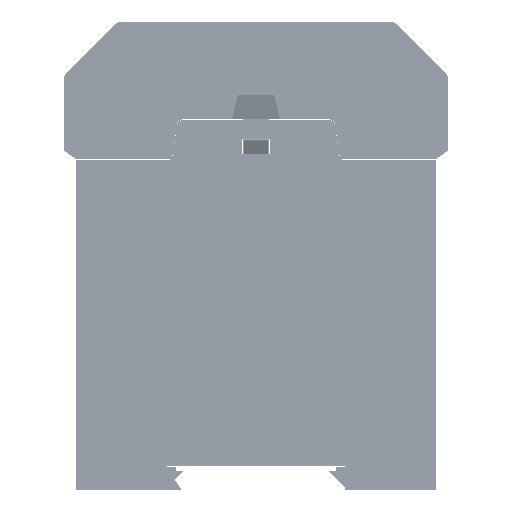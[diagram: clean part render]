
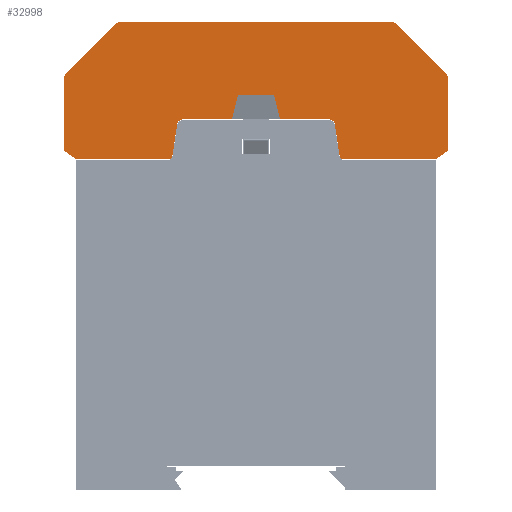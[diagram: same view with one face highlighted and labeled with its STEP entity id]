
A CAD part, front view. The second image highlights one B-rep face of the part: STEP entity #32998.
In plain terms, the highlighted planar face has unit normal (0, -1, 0).
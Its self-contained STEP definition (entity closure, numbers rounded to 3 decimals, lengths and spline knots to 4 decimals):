
#745=PLANE('',#35533);
#3485=FACE_OUTER_BOUND('',#5260,.T.);
#5260=EDGE_LOOP('',(#28944,#28945,#28946,#28947,#28948,#28949,#28950,#28951,
#28952,#28953,#28954,#28955,#28956,#28957,#28958,#28959,#28960,#28961,#28962,
#28963,#28964,#28965,#28966,#28967));
#6174=CIRCLE('',#35534,0.05);
#6175=CIRCLE('',#35535,0.03);
#6176=CIRCLE('',#35536,0.05);
#6177=CIRCLE('',#35537,0.05);
#6178=CIRCLE('',#35538,0.05);
#6179=CIRCLE('',#35539,0.05);
#6180=CIRCLE('',#35540,0.03);
#6181=CIRCLE('',#35541,0.05);
#9105=LINE('',#108102,#11547);
#9109=LINE('',#108110,#11551);
#9110=LINE('',#108112,#11552);
#9111=LINE('',#108114,#11553);
#9112=LINE('',#108118,#11554);
#9113=LINE('',#108122,#11555);
#9114=LINE('',#108124,#11556);
#9115=LINE('',#108126,#11557);
#9116=LINE('',#108130,#11558);
#9117=LINE('',#108134,#11559);
#9118=LINE('',#108138,#11560);
#9119=LINE('',#108142,#11561);
#9120=LINE('',#108144,#11562);
#9121=LINE('',#108146,#11563);
#9122=LINE('',#108150,#11564);
#9123=LINE('',#108153,#11565);
#11547=VECTOR('',#42051,0.3937);
#11551=VECTOR('',#42057,0.3937);
#11552=VECTOR('',#42060,0.3937);
#11553=VECTOR('',#42061,0.3937);
#11554=VECTOR('',#42064,0.3937);
#11555=VECTOR('',#42067,0.3937);
#11556=VECTOR('',#42068,0.3937);
#11557=VECTOR('',#42069,0.3937);
#11558=VECTOR('',#42072,0.3937);
#11559=VECTOR('',#42075,0.3937);
#11560=VECTOR('',#42078,0.3937);
#11561=VECTOR('',#42081,0.3937);
#11562=VECTOR('',#42082,0.3937);
#11563=VECTOR('',#42083,0.3937);
#11564=VECTOR('',#42086,0.3937);
#11565=VECTOR('',#42089,0.3937);
#14902=VERTEX_POINT('',#108099);
#14903=VERTEX_POINT('',#108101);
#14904=VERTEX_POINT('',#108105);
#14906=VERTEX_POINT('',#108108);
#14907=VERTEX_POINT('',#108113);
#14908=VERTEX_POINT('',#108115);
#14909=VERTEX_POINT('',#108117);
#14910=VERTEX_POINT('',#108119);
#14911=VERTEX_POINT('',#108121);
#14912=VERTEX_POINT('',#108123);
#14913=VERTEX_POINT('',#108125);
#14914=VERTEX_POINT('',#108127);
#14915=VERTEX_POINT('',#108129);
#14916=VERTEX_POINT('',#108131);
#14917=VERTEX_POINT('',#108133);
#14918=VERTEX_POINT('',#108135);
#14919=VERTEX_POINT('',#108137);
#14920=VERTEX_POINT('',#108139);
#14921=VERTEX_POINT('',#108141);
#14922=VERTEX_POINT('',#108143);
#14923=VERTEX_POINT('',#108145);
#14924=VERTEX_POINT('',#108147);
#14925=VERTEX_POINT('',#108149);
#14926=VERTEX_POINT('',#108151);
#19676=EDGE_CURVE('',#14903,#14902,#9105,.T.);
#19680=EDGE_CURVE('',#14904,#14906,#9109,.T.);
#19681=EDGE_CURVE('',#14902,#14904,#9110,.T.);
#19682=EDGE_CURVE('',#14907,#14906,#9111,.T.);
#19683=EDGE_CURVE('',#14908,#14907,#6174,.T.);
#19684=EDGE_CURVE('',#14909,#14908,#9112,.T.);
#19685=EDGE_CURVE('',#14910,#14909,#6175,.T.);
#19686=EDGE_CURVE('',#14911,#14910,#9113,.T.);
#19687=EDGE_CURVE('',#14911,#14912,#9114,.T.);
#19688=EDGE_CURVE('',#14913,#14912,#9115,.T.);
#19689=EDGE_CURVE('',#14914,#14913,#6176,.T.);
#19690=EDGE_CURVE('',#14914,#14915,#9116,.T.);
#19691=EDGE_CURVE('',#14916,#14915,#6177,.T.);
#19692=EDGE_CURVE('',#14916,#14917,#9117,.T.);
#19693=EDGE_CURVE('',#14918,#14917,#6178,.T.);
#19694=EDGE_CURVE('',#14918,#14919,#9118,.T.);
#19695=EDGE_CURVE('',#14920,#14919,#6179,.T.);
#19696=EDGE_CURVE('',#14921,#14920,#9119,.T.);
#19697=EDGE_CURVE('',#14921,#14922,#9120,.T.);
#19698=EDGE_CURVE('',#14923,#14922,#9121,.T.);
#19699=EDGE_CURVE('',#14924,#14923,#6180,.T.);
#19700=EDGE_CURVE('',#14925,#14924,#9122,.T.);
#19701=EDGE_CURVE('',#14926,#14925,#6181,.T.);
#19702=EDGE_CURVE('',#14903,#14926,#9123,.T.);
#28944=ORIENTED_EDGE('',*,*,#19676,.T.);
#28945=ORIENTED_EDGE('',*,*,#19681,.T.);
#28946=ORIENTED_EDGE('',*,*,#19680,.T.);
#28947=ORIENTED_EDGE('',*,*,#19682,.F.);
#28948=ORIENTED_EDGE('',*,*,#19683,.F.);
#28949=ORIENTED_EDGE('',*,*,#19684,.F.);
#28950=ORIENTED_EDGE('',*,*,#19685,.F.);
#28951=ORIENTED_EDGE('',*,*,#19686,.F.);
#28952=ORIENTED_EDGE('',*,*,#19687,.T.);
#28953=ORIENTED_EDGE('',*,*,#19688,.F.);
#28954=ORIENTED_EDGE('',*,*,#19689,.F.);
#28955=ORIENTED_EDGE('',*,*,#19690,.T.);
#28956=ORIENTED_EDGE('',*,*,#19691,.F.);
#28957=ORIENTED_EDGE('',*,*,#19692,.T.);
#28958=ORIENTED_EDGE('',*,*,#19693,.F.);
#28959=ORIENTED_EDGE('',*,*,#19694,.T.);
#28960=ORIENTED_EDGE('',*,*,#19695,.F.);
#28961=ORIENTED_EDGE('',*,*,#19696,.F.);
#28962=ORIENTED_EDGE('',*,*,#19697,.T.);
#28963=ORIENTED_EDGE('',*,*,#19698,.F.);
#28964=ORIENTED_EDGE('',*,*,#19699,.F.);
#28965=ORIENTED_EDGE('',*,*,#19700,.F.);
#28966=ORIENTED_EDGE('',*,*,#19701,.F.);
#28967=ORIENTED_EDGE('',*,*,#19702,.F.);
#32998=ADVANCED_FACE('',(#3485),#745,.T.);
#35533=AXIS2_PLACEMENT_3D('',#108111,#42058,#42059);
#35534=AXIS2_PLACEMENT_3D('',#108116,#42062,#42063);
#35535=AXIS2_PLACEMENT_3D('',#108120,#42065,#42066);
#35536=AXIS2_PLACEMENT_3D('',#108128,#42070,#42071);
#35537=AXIS2_PLACEMENT_3D('',#108132,#42073,#42074);
#35538=AXIS2_PLACEMENT_3D('',#108136,#42076,#42077);
#35539=AXIS2_PLACEMENT_3D('',#108140,#42079,#42080);
#35540=AXIS2_PLACEMENT_3D('',#108148,#42084,#42085);
#35541=AXIS2_PLACEMENT_3D('',#108152,#42087,#42088);
#42051=DIRECTION('',(0.243,0.,0.97));
#42057=DIRECTION('',(0.243,0.,-0.97));
#42058=DIRECTION('center_axis',(0.,-1.,0.));
#42059=DIRECTION('ref_axis',(1.,0.,0.));
#42060=DIRECTION('',(1.,0.,0.));
#42061=DIRECTION('',(-1.,0.,0.));
#42062=DIRECTION('center_axis',(0.,-1.,0.));
#42063=DIRECTION('ref_axis',(0.652,0.,0.758));
#42064=DIRECTION('',(-0.15,0.,0.989));
#42065=DIRECTION('center_axis',(0.,1.,0.));
#42066=DIRECTION('ref_axis',(-0.652,0.,-0.758));
#42067=DIRECTION('',(-1.,0.,0.));
#42068=DIRECTION('',(0.819,0.,0.573));
#42069=DIRECTION('',(0.,0.,-1.));
#42070=DIRECTION('center_axis',(0.,1.,0.));
#42071=DIRECTION('ref_axis',(0.924,0.,0.383));
#42072=DIRECTION('',(-0.707,0.,0.707));
#42073=DIRECTION('center_axis',(0.,1.,0.));
#42074=DIRECTION('ref_axis',(0.383,0.,0.924));
#42075=DIRECTION('',(-1.,0.,0.));
#42076=DIRECTION('center_axis',(0.,1.,0.));
#42077=DIRECTION('ref_axis',(-0.383,0.,0.924));
#42078=DIRECTION('',(-0.707,0.,-0.707));
#42079=DIRECTION('center_axis',(0.,1.,0.));
#42080=DIRECTION('ref_axis',(-0.924,0.,0.383));
#42081=DIRECTION('',(0.,0.,1.));
#42082=DIRECTION('',(0.819,0.,-0.573));
#42083=DIRECTION('',(-1.,0.,0.));
#42084=DIRECTION('center_axis',(0.,1.,0.));
#42085=DIRECTION('ref_axis',(0.652,0.,-0.758));
#42086=DIRECTION('',(-0.15,0.,-0.989));
#42087=DIRECTION('center_axis',(0.,-1.,0.));
#42088=DIRECTION('ref_axis',(-0.652,0.,0.758));
#42089=DIRECTION('',(-1.,0.,0.));
#108099=CARTESIAN_POINT('',(1.35,1.87,0.53));
#108101=CARTESIAN_POINT('',(1.3,1.87,0.33));
#108102=CARTESIAN_POINT('',(1.288,1.87,0.2821));
#108105=CARTESIAN_POINT('',(1.65,1.87,0.53));
#108108=CARTESIAN_POINT('',(1.7,1.87,0.33));
#108110=CARTESIAN_POINT('',(1.6513,1.87,0.5249));
#108111=CARTESIAN_POINT('Origin',(0.893,1.87,0.33));
#108112=CARTESIAN_POINT('',(1.1965,1.87,0.53));
#108113=CARTESIAN_POINT('',(2.107,1.87,0.33));
#108114=CARTESIAN_POINT('',(1.7,1.87,0.33));
#108115=CARTESIAN_POINT('',(2.1564,1.87,0.2875));
#108116=CARTESIAN_POINT('Origin',(2.107,1.87,0.28));
#108117=CARTESIAN_POINT('',(2.1961,1.87,0.0255));
#108118=CARTESIAN_POINT('',(2.1878,1.87,0.0806));
#108119=CARTESIAN_POINT('',(2.2258,1.87,0.));
#108120=CARTESIAN_POINT('Origin',(2.2258,1.87,0.03));
#108121=CARTESIAN_POINT('',(3.,1.87,0.));
#108122=CARTESIAN_POINT('',(2.2258,1.87,0.));
#108123=CARTESIAN_POINT('',(3.1,1.87,0.07));
#108124=CARTESIAN_POINT('',(2.3705,1.87,-0.4407));
#108125=CARTESIAN_POINT('',(3.1,1.87,0.6693));
#108126=CARTESIAN_POINT('',(3.1,1.87,0.));
#108127=CARTESIAN_POINT('',(3.0854,1.87,0.7046));
#108128=CARTESIAN_POINT('Origin',(3.05,1.87,0.6693));
#108129=CARTESIAN_POINT('',(2.6646,1.87,1.1254));
#108130=CARTESIAN_POINT('',(2.6382,1.87,1.1518));
#108131=CARTESIAN_POINT('',(2.6293,1.87,1.14));
#108132=CARTESIAN_POINT('Origin',(2.6293,1.87,1.09));
#108133=CARTESIAN_POINT('',(0.3707,1.87,1.14));
#108134=CARTESIAN_POINT('',(0.,1.87,1.14));
#108135=CARTESIAN_POINT('',(0.3354,1.87,1.1254));
#108136=CARTESIAN_POINT('Origin',(0.3707,1.87,1.09));
#108137=CARTESIAN_POINT('',(-0.0854,1.87,0.7046));
#108138=CARTESIAN_POINT('',(0.2832,1.87,1.0732));
#108139=CARTESIAN_POINT('',(-0.1,1.87,0.6693));
#108140=CARTESIAN_POINT('Origin',(-0.05,1.87,0.6693));
#108141=CARTESIAN_POINT('',(-0.1,1.87,0.07));
#108142=CARTESIAN_POINT('',(-0.1,1.87,0.));
#108143=CARTESIAN_POINT('',(0.,1.87,0.));
#108144=CARTESIAN_POINT('',(0.1721,1.87,-0.1205));
#108145=CARTESIAN_POINT('',(0.7742,1.87,0.));
#108146=CARTESIAN_POINT('',(0.,1.87,0.));
#108147=CARTESIAN_POINT('',(0.8039,1.87,0.0255));
#108148=CARTESIAN_POINT('Origin',(0.7742,1.87,0.03));
#108149=CARTESIAN_POINT('',(0.8436,1.87,0.2875));
#108150=CARTESIAN_POINT('',(0.8366,1.87,0.2419));
#108151=CARTESIAN_POINT('',(0.893,1.87,0.33));
#108152=CARTESIAN_POINT('Origin',(0.893,1.87,0.28));
#108153=CARTESIAN_POINT('',(0.893,1.87,0.33));
